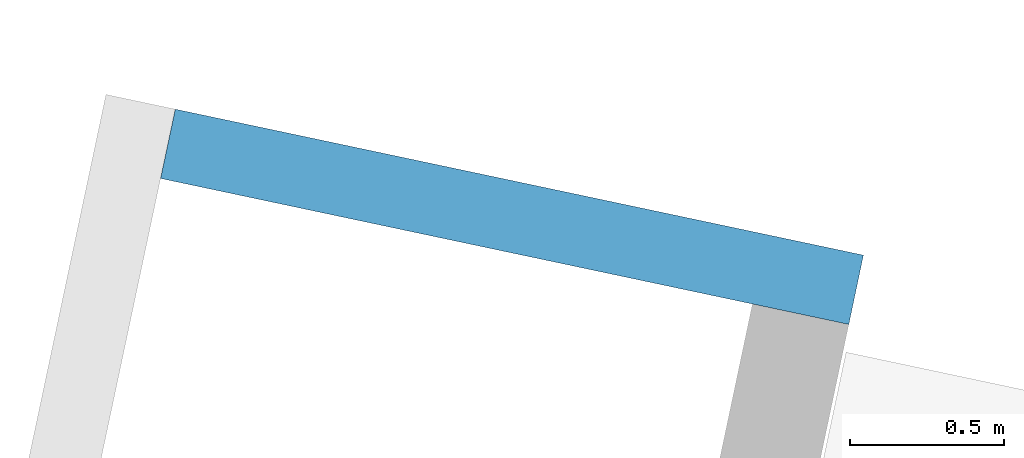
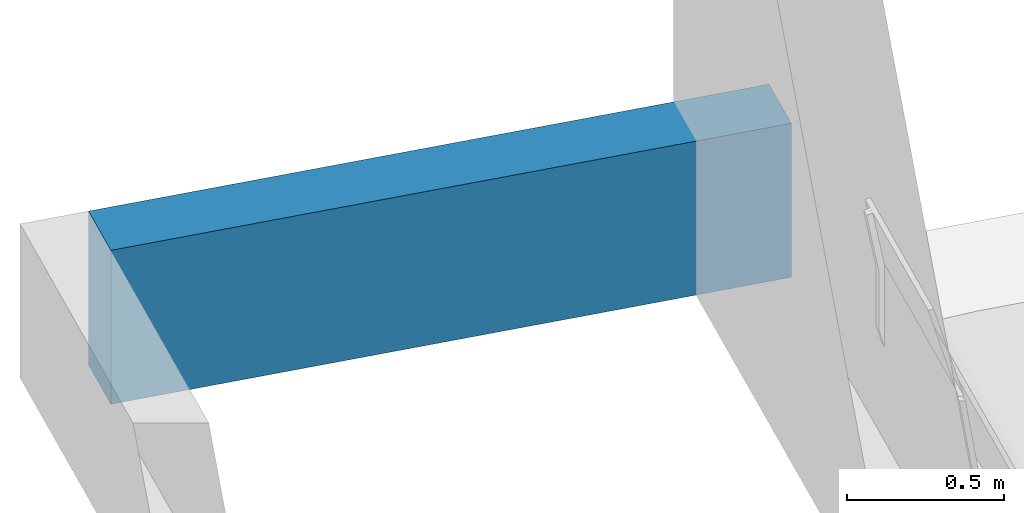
# One storey, part 9 of 18: 1 wall, 4 openings.
"""IFC2X3 building model written with IfcOpenShell, lengths in metres."""

from ifc_helpers import new_model, entity, si_unit, converted_unit, derived_unit, direction, frame, origin, place, context, subcontext, project, spatial, polyline, outline, extrude, faceted_brep, material, layer, layer_set, layer_usage, type_object, element, save


model = new_model("IFC2X3")

# Units and contexts
model_context = context("Model", 3, precision=1e-05, world=origin(), true_north=direction((6.12303176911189e-17, 1.0)))
body_context = subcontext(model_context, "Body", "Model", "MODEL_VIEW")
ifc_project = project(units=[si_unit("LENGTHUNIT", "METRE"), si_unit("AREAUNIT", "SQUARE_METRE"), si_unit("VOLUMEUNIT", "CUBIC_METRE"), converted_unit("PLANEANGLEUNIT", "DEGREE", entity("IfcRatioMeasure", 0.0174532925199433), si_unit("PLANEANGLEUNIT", "RADIAN"), dimensions=[0, 0, 0, 0, 0, 0, 0]), si_unit("MASSUNIT", "GRAM", prefix="KILO"), derived_unit("MASSDENSITYUNIT", [(si_unit("MASSUNIT", "GRAM", prefix="KILO"), 1), (si_unit("LENGTHUNIT", "METRE"), -3)]), si_unit("TIMEUNIT", "SECOND"), si_unit("FREQUENCYUNIT", "HERTZ"), si_unit("THERMODYNAMICTEMPERATUREUNIT", "DEGREE_CELSIUS"), derived_unit("THERMALTRANSMITTANCEUNIT", [(si_unit("MASSUNIT", "GRAM", prefix="KILO"), 1), (si_unit("THERMODYNAMICTEMPERATUREUNIT", "KELVIN"), -1), (si_unit("TIMEUNIT", "SECOND"), -3)]), derived_unit("VOLUMETRICFLOWRATEUNIT", [(si_unit("LENGTHUNIT", "METRE"), 3), (si_unit("TIMEUNIT", "SECOND"), -1)]), si_unit("ELECTRICCURRENTUNIT", "AMPERE"), si_unit("ELECTRICVOLTAGEUNIT", "VOLT"), si_unit("POWERUNIT", "WATT"), si_unit("FORCEUNIT", "NEWTON", prefix="KILO"), si_unit("ILLUMINANCEUNIT", "LUX"), si_unit("LUMINOUSFLUXUNIT", "LUMEN"), si_unit("LUMINOUSINTENSITYUNIT", "CANDELA"), derived_unit("USERDEFINED", [(si_unit("MASSUNIT", "GRAM", prefix="KILO"), -1), (si_unit("LENGTHUNIT", "METRE"), -2), (si_unit("TIMEUNIT", "SECOND"), 3), (si_unit("LUMINOUSFLUXUNIT", "LUMEN"), 1)]), derived_unit("LINEARVELOCITYUNIT", [(si_unit("LENGTHUNIT", "METRE"), 1), (si_unit("TIMEUNIT", "SECOND"), -1)]), si_unit("PRESSUREUNIT", "PASCAL"), derived_unit("USERDEFINED", [(si_unit("LENGTHUNIT", "METRE"), -2), (si_unit("MASSUNIT", "GRAM", prefix="KILO"), 1), (si_unit("TIMEUNIT", "SECOND"), -2)])], contexts=[model_context])

# Site, building, storey
site_placement = place(None, origin())
site = spatial("IfcSite", under=ifc_project, at=site_placement, Name="Default", CompositionType="ELEMENT")
building_placement = place(site_placement, origin())
building = spatial("IfcBuilding", under=site, at=building_placement, CompositionType="ELEMENT")
storey_placement = place(building_placement, frame((0.0, 0.0, 2.8)))
storey = spatial("IfcBuildingStorey", under=building, at=storey_placement, Name="ETAGE", CompositionType="ELEMENT", Elevation=2.8)

# Wall, openings
ifc_material_1 = material(Name="Enduit blanc cassé2")
ifc_layer_1 = layer(ifc_material_1, 0.015)
ifc_material_2 = material(Name="Parpaing")
ifc_layer_2 = layer(ifc_material_2, 0.2)
ifc_layer_3 = layer(ifc_material_1, 0.015)
ifc_layer_set = layer_set([ifc_layer_1, ifc_layer_2, ifc_layer_3], Name="Mur de base:Ext. Parpaing 20 + 2 x 1.5")
ifc_layer_usage = layer_usage(ifc_layer_set, "AXIS2", "NEGATIVE", 0.115)
wall_type = type_object("IfcWallType", Name="Mur de base:Ext. Parpaing 20 + 2 x 1.5", PredefinedType="STANDARD", material=ifc_layer_set)
wall_placement = place(storey_placement, frame((-19.6198541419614, 87.12367951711, 0.0), z_axis=(0.0, 0.0, 1.0), x_axis=(0.978238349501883, -0.207484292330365, 0.0)))
wall = element("IfcWallStandardCase", 1, at=wall_placement, inside=storey, type_object=wall_type, material=ifc_layer_usage, Name="Mur de base:Ext. Parpaing 20 + 2 x 1.5", ObjectType="Mur de base:Ext. Parpaing 20 + 2 x 1.5", context=body_context, shape_type="SweptSolid", body=[
    extrude(outline(polyline([(0.0, -0.115000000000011), (0.0899999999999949, -0.115000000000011), (1.96423586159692, -0.115000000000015), (2.28423600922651, -0.11500000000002), (2.28401507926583, 0.114999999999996), (0.0899999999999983, 0.114999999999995), (0.0, 0.114999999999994), (0.0, -0.115000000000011)])), origin(), (0.0, 0.0, 1.0), 0.6),
])
opening_1_placement = place(wall_placement, frame((4.52853868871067, -0.788562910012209, 0.216120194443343)))
element("IfcOpeningElement", 2, at=opening_1_placement, cuts=wall, Name="Mur de base:Ext. Parpaing 20 + 2 x 1.5", ObjectType="Opening", context=body_context, shape_type="Brep", body=[
    faceted_brep([(1.1483403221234, 0.243562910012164, 1.93387980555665), (-0.0516596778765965, 0.243562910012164, 1.93387980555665), (-0.0516596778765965, 0.243562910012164, 0.0338798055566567), (1.1483403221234, 0.243562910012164, 0.0338798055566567), (1.14834032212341, 1.24356291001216, 1.93387980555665), (1.14834032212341, 1.24356291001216, 0.0338798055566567), (-0.0516596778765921, 1.24356291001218, 0.0338798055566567), (-0.0516596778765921, 1.24356291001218, 1.93387980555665), (1.1483403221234, 0.570562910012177, 1.93387980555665), (-0.0516596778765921, 0.570562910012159, 1.93387980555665), (-0.0516596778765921, 0.570562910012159, 0.0338798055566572), (-0.0916596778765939, 0.570562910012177, 0.0338798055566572), (-0.0916596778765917, 0.683562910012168, 0.0338798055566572), (-0.0516596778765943, 0.683562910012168, 0.0338798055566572), (-0.0516596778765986, 0.681562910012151, 0.0338798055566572), (1.1483403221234, 0.681562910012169, 0.0338798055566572), (1.14834032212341, 0.683562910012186, 0.0338798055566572), (1.1883403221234, 0.683562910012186, 0.0338798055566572), (1.18834032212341, 0.570562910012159, 0.0338798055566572), (1.1483403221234, 0.570562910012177, 0.0338798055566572), (1.18834032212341, 0.570562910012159, 1.97387980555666), (-0.0916596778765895, 0.570562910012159, 1.97387980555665), (-0.0916596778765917, 0.683562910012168, 1.97387980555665), (-0.101659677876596, 0.683562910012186, 1.97387980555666), (-0.101659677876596, 0.683562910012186, 2.15387980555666), (1.19834032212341, 0.683562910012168, 2.15387980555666), (1.19834032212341, 0.683562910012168, 1.97387980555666), (1.18834032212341, 0.683562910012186, 1.97387980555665), (1.14834032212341, 0.683562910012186, 1.93387980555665), (-0.0516596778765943, 0.683562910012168, 1.93387980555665), (-0.101659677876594, 0.550562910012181, 2.15387980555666), (-0.101659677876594, 0.550562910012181, 1.97387980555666), (1.19834032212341, 0.550562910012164, 2.15387980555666), (1.19834032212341, 0.550562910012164, 1.97387980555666), (-0.0516596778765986, 0.681562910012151, 0.0220471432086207), (1.1483403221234, 0.681562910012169, 0.0220471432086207), (-0.0516596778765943, 0.933562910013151, 0.0338798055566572), (1.14834032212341, 0.933562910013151, 0.0338798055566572), (1.14834032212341, 0.933562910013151, 0.0), (-0.0516596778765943, 0.933562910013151, 0.0)], [[[0, 1, 2, 3]], [[4, 5, 6, 7]], [[0, 8, 9, 1]], [[1, 9, 10, 2]], [[2, 10, 11, 12, 13, 14, 15, 16, 17, 18, 19, 3]], [[3, 19, 8, 0]], [[10, 9, 8, 19, 18, 20, 21, 11]], [[11, 21, 22, 12]], [[12, 22, 23, 24, 25, 26, 27, 17, 16, 28, 29, 13]], [[18, 17, 27, 20]], [[30, 24, 23, 31]], [[32, 33, 26, 25]], [[30, 32, 25, 24]], [[23, 22, 21, 20, 27, 26, 33, 31]], [[31, 33, 32, 30]], [[34, 35, 15, 14]], [[36, 37, 38, 39]], [[39, 38, 35, 34]], [[4, 28, 16, 15, 35, 38, 37, 5]], [[5, 37, 36, 6]], [[6, 36, 39, 34, 14, 13, 29, 7]], [[7, 29, 28, 4]]]),
])
opening_2_placement = place(wall_placement, frame((6.65936839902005, -0.78856291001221, 1.47)))
element("IfcOpeningElement", 3, at=opening_2_placement, cuts=wall, Name="Mur de base:Ext. Parpaing 20 + 2 x 1.5", ObjectType="Opening", context=body_context, shape_type="Brep", body=[
    faceted_brep([(-0.0516596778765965, 0.663562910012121, 0.0800000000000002), (-0.0516596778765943, 0.683562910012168, 0.0800000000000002), (-0.0516596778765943, 0.683562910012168, 0.679999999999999), (-0.0516596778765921, 1.24356291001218, 0.679999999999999), (-0.0516596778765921, 1.24356291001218, 0.0), (-0.0516596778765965, 0.663562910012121, 0.0), (1.1483403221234, 0.243562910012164, 0.0800000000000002), (1.1483403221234, 0.583562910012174, 0.0800000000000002), (1.1483403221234, 0.583562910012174, 0.679999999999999), (1.1483403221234, 0.243562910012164, 0.679999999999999), (-0.0516596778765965, 0.243562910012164, 0.0800000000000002), (-0.0516596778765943, 0.583562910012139, 0.0800000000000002), (-0.101659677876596, 0.583562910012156, 0.0800000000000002), (-0.101659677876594, 0.633562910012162, 0.0800000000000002), (-0.0616596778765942, 0.633562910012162, 0.0800000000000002), (-0.061659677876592, 0.683562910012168, 0.0800000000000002), (1.1483403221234, 0.663562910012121, 0.0800000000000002), (1.1483403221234, 0.683562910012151, 0.0800000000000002), (1.1583403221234, 0.683562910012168, 0.0800000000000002), (1.15834032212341, 0.633562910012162, 0.0800000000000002), (1.1983403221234, 0.633562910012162, 0.0800000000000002), (1.1983403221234, 0.583562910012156, 0.0800000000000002), (-0.0516596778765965, 0.243562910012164, 0.679999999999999), (1.1483403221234, 0.683562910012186, 0.679999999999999), (1.14834032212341, 1.24356291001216, 0.679999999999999), (1.14834032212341, 1.24356291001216, 0.0), (1.1483403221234, 0.663562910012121, 0.0), (-0.101659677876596, 0.583562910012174, 0.729999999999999), (-0.101659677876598, 0.633562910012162, 0.729999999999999), (1.1983403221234, 0.633562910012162, 0.729999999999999), (1.1583403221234, 0.633562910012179, 0.689999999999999), (-0.0616596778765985, 0.633562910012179, 0.689999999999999), (-0.0616596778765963, 0.683562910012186, 0.689999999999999), (1.1583403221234, 0.683562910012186, 0.689999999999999), (-0.0516596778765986, 0.583562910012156, 0.679999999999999), (1.19834032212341, 0.583562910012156, 0.729999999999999)], [[[0, 1, 2, 3, 4, 5]], [[6, 7, 8, 9]], [[10, 11, 12, 13, 14, 15, 1, 0, 16, 17, 18, 19, 20, 21, 7, 6]], [[10, 6, 9, 22]], [[3, 2, 23, 24]], [[3, 24, 25, 4]], [[4, 25, 26, 5]], [[5, 26, 16, 0]], [[12, 27, 28, 13]], [[13, 28, 29, 20, 19, 30, 31, 14]], [[14, 31, 32, 15]], [[15, 32, 33, 18, 17, 23, 2, 1]], [[11, 34, 8, 7, 21, 35, 27, 12]], [[27, 35, 29, 28]], [[30, 33, 32, 31]], [[29, 35, 21, 20]], [[19, 18, 33, 30]], [[9, 8, 34, 22]], [[24, 23, 17, 16, 26, 25]], [[22, 34, 11, 10]]]),
])
opening_3_placement = place(wall_placement, frame((8.44229022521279, -0.666781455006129, 1.22)))
element("IfcOpeningElement", 4, at=opening_3_placement, cuts=wall, Name="Mur de base:Ext. Parpaing 20 + 2 x 1.5", ObjectType="Opening", context=body_context, shape_type="Brep", body=[
    faceted_brep([(-0.0258298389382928, 0.54178145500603, 0.0800000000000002), (-0.025829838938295, 0.561781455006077, 0.0800000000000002), (-0.025829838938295, 0.561781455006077, 0.93), (-0.0258298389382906, 1.12178145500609, 0.93), (-0.0258298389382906, 1.12178145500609, 0.0), (-0.0258298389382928, 0.54178145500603, 0.0), (0.574170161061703, 0.121781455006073, 0.0800000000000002), (0.574170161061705, 0.461781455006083, 0.0800000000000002), (0.574170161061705, 0.461781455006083, 0.93), (0.574170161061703, 0.121781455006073, 0.93), (-0.025829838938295, 0.121781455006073, 0.0800000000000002), (-0.0258298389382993, 0.461781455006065, 0.0800000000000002), (-0.0758298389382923, 0.461781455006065, 0.0800000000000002), (-0.0758298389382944, 0.511781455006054, 0.0800000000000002), (-0.0358298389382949, 0.511781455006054, 0.0800000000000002), (-0.0358298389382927, 0.561781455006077, 0.0800000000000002), (0.574170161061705, 0.54178145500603, 0.0800000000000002), (0.574170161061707, 0.56178145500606, 0.0800000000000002), (0.584170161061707, 0.561781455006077, 0.0800000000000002), (0.584170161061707, 0.511781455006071, 0.0800000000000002), (0.624170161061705, 0.511781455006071, 0.0800000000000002), (0.624170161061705, 0.461781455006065, 0.0800000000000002), (-0.025829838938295, 0.121781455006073, 0.93), (0.574170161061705, 0.561781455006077, 0.93), (0.574170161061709, 1.12178145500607, 0.93), (0.574170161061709, 1.12178145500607, 0.0), (0.574170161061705, 0.54178145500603, 0.0), (-0.0758298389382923, 0.461781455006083, 0.979999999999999), (-0.0758298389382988, 0.511781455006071, 0.979999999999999), (0.624170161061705, 0.511781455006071, 0.979999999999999), (0.584170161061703, 0.511781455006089, 0.94), (-0.0358298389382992, 0.511781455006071, 0.94), (-0.035829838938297, 0.561781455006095, 0.94), (0.584170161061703, 0.561781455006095, 0.94), (-0.025829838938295, 0.461781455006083, 0.93), (0.624170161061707, 0.461781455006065, 0.979999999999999)], [[[0, 1, 2, 3, 4, 5]], [[6, 7, 8, 9]], [[10, 11, 12, 13, 14, 15, 1, 0, 16, 17, 18, 19, 20, 21, 7, 6]], [[10, 6, 9, 22]], [[3, 2, 23, 24]], [[3, 24, 25, 4]], [[4, 25, 26, 5]], [[5, 26, 16, 0]], [[12, 27, 28, 13]], [[13, 28, 29, 20, 19, 30, 31, 14]], [[14, 31, 32, 15]], [[15, 32, 33, 18, 17, 23, 2, 1]], [[11, 34, 8, 7, 21, 35, 27, 12]], [[27, 35, 29, 28]], [[30, 33, 32, 31]], [[29, 35, 21, 20]], [[19, 18, 33, 30]], [[9, 8, 34, 22]], [[24, 23, 17, 16, 26, 25]], [[22, 34, 11, 10]]]),
])
opening_4_placement = place(wall_placement, frame((2.43026962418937, -0.829156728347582, -2.83387980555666)))
element("IfcOpeningElement", 5, at=opening_4_placement, cuts=wall, Name="Mur de base:Ext. Parpaing 20 + 2 x 1.5", ObjectType="Opening", context=body_context, shape_type="Brep", body=[
    faceted_brep([(1.33973037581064, 0.284156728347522, 2.18387980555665), (-0.0602696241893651, 0.284156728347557, 2.18387980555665), (-0.0602696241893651, 0.284156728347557, 0.0338798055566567), (1.33973037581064, 0.284156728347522, 0.0338798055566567), (1.33973037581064, 1.28415672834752, 2.18387980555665), (1.33973037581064, 1.28415672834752, 0.0338798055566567), (-0.0602696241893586, 1.28415672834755, 0.0338798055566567), (-0.0602696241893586, 1.28415672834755, 2.18387980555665), (1.33973037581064, 0.611156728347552, 2.18387980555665), (-0.0602696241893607, 0.611156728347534, 2.18387980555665), (-0.0602696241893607, 0.611156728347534, 0.0338798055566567), (-0.100269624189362, 0.611156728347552, 0.0338798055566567), (-0.10026962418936, 0.724156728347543, 0.0338798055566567), (-0.0602696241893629, 0.724156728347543, 0.0338798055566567), (-0.0602696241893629, 0.722156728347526, 0.0338798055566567), (1.33973037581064, 0.722156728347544, 0.0338798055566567), (1.33973037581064, 0.724156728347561, 0.0338798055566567), (1.37973037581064, 0.724156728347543, 0.0338798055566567), (1.37973037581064, 0.611156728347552, 0.0338798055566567), (1.33973037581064, 0.611156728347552, 0.0338798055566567), (1.37973037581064, 0.611156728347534, 2.22387980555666), (-0.100269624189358, 0.611156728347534, 2.22387980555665), (-0.10026962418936, 0.724156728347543, 2.22387980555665), (-0.11026962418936, 0.724156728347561, 2.22387980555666), (-0.11026962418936, 0.724156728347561, 2.40387980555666), (1.38973037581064, 0.724156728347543, 2.40387980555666), (1.38973037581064, 0.724156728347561, 2.22387980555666), (1.37973037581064, 0.724156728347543, 2.22387980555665), (1.33973037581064, 0.724156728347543, 2.18387980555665), (-0.0602696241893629, 0.724156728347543, 2.18387980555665), (-0.110269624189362, 0.591156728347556, 2.40387980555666), (-0.110269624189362, 0.591156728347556, 2.22387980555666), (1.38973037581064, 0.591156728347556, 2.40387980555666), (1.38973037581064, 0.591156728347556, 2.22387980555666), (-0.0602696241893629, 0.722156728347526, 0.0220471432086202), (1.33973037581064, 0.722156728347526, 0.0220471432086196), (-0.0602696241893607, 0.974156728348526, 0.0338798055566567), (1.33973037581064, 0.974156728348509, 0.0338798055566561), (1.33973037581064, 0.974156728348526, 0.0), (-0.0602696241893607, 0.974156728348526, 0.0)], [[[0, 1, 2, 3]], [[4, 5, 6, 7]], [[0, 8, 9, 1]], [[1, 9, 10, 2]], [[2, 10, 11, 12, 13, 14, 15, 16, 17, 18, 19, 3]], [[3, 19, 8, 0]], [[10, 9, 8, 19, 18, 20, 21, 11]], [[11, 21, 22, 12]], [[12, 22, 23, 24, 25, 26, 27, 17, 16, 28, 29, 13]], [[18, 17, 27, 20]], [[30, 24, 23, 31]], [[32, 33, 26, 25]], [[30, 32, 25, 24]], [[23, 22, 21, 20, 27, 26, 33, 31]], [[31, 33, 32, 30]], [[34, 35, 15, 14]], [[36, 37, 38, 39]], [[39, 38, 35, 34]], [[4, 28, 16, 15, 35, 38, 37, 5]], [[5, 37, 36, 6]], [[6, 36, 39, 34, 14, 13, 29, 7]], [[7, 29, 28, 4]]]),
])

save(model, "model.ifc")
